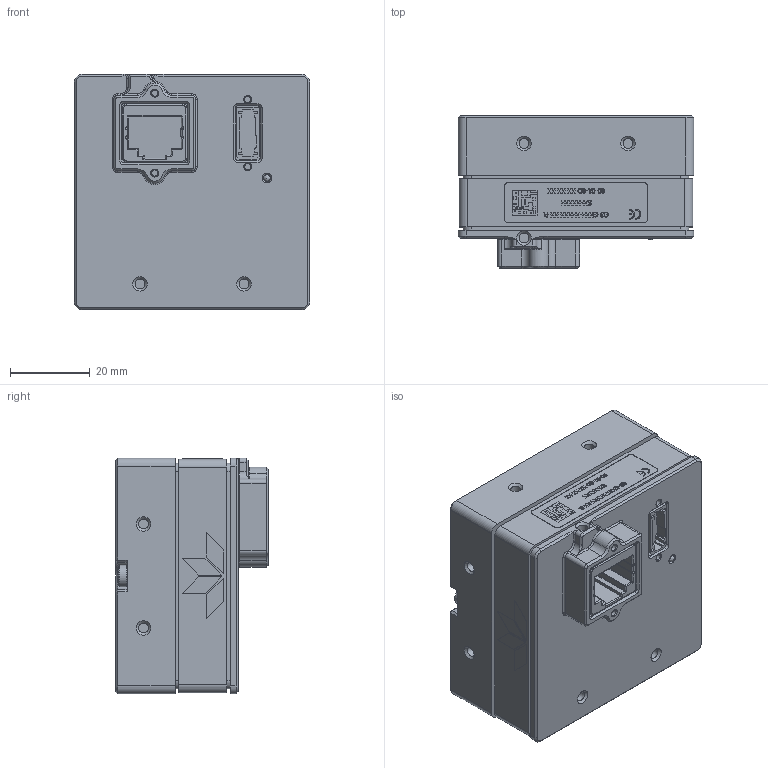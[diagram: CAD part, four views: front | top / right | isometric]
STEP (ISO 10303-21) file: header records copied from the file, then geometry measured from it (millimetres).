
FILE_DESCRIPTION(/* description */ (''),/* implementation_level */ '2;1');
FILE_NAME(/* name */ '\\navy\data\MECH_ENG\ECO Ready Drawings\Shamsher\03-129-20194-03 NOVA-HE XL CASING CUSTOMER DRAWING\03-129-20194-03 GENIE NANO 1 GigE XL CASING USER 3D MODEL.stp',/* time_stamp */ '2018-10-22T16:37:04-04:00',/* author */ ('sduhra'),/* organization */ (''),/* preprocessor_version */ 'ST-DEVELOPER v17',/* originating_system */ 'Autodesk Inventor 2018',/* authorisation */ '');
FILE_SCHEMA (('AUTOMOTIVE_DESIGN { 1 0 10303 214 3 1 1 }'));
Length unit declared in the file: millimetre
Products named in the file (1): 03-129-20194-03 GENIE NANO 1 GigE XL CASING USER 3D MODEL
Bounding box: 59 x 38.28 x 59 mm (x, y, z)
Volume: 92479.1 mm3; surface area: 21929 mm2
Topology: 1 solids, 14 shells, 1564 faces, 4055 edges, 2640 vertices
Faces by surface type: plane 1020, bspline 217, cylinder 201, cone 93, torus 29, sphere 4
Full cylindrical faces by diameter (mm): 1.567 x4, 1.6 x1, 1.7 x1, 2.459 x15, 3.1 x2, 3.5 x2, 3.6 x3, 5.5 x2, 6.4 x2, 40.917 x1, 42.314 x1
Entity records: 50740 total; most frequent: CARTESIAN_POINT 11899, ORIENTED_EDGE 8096, DIRECTION 6897, EDGE_CURVE 4048, LINE 2981, VECTOR 2981, VERTEX_POINT 2640, AXIS2_PLACEMENT_3D 1958
